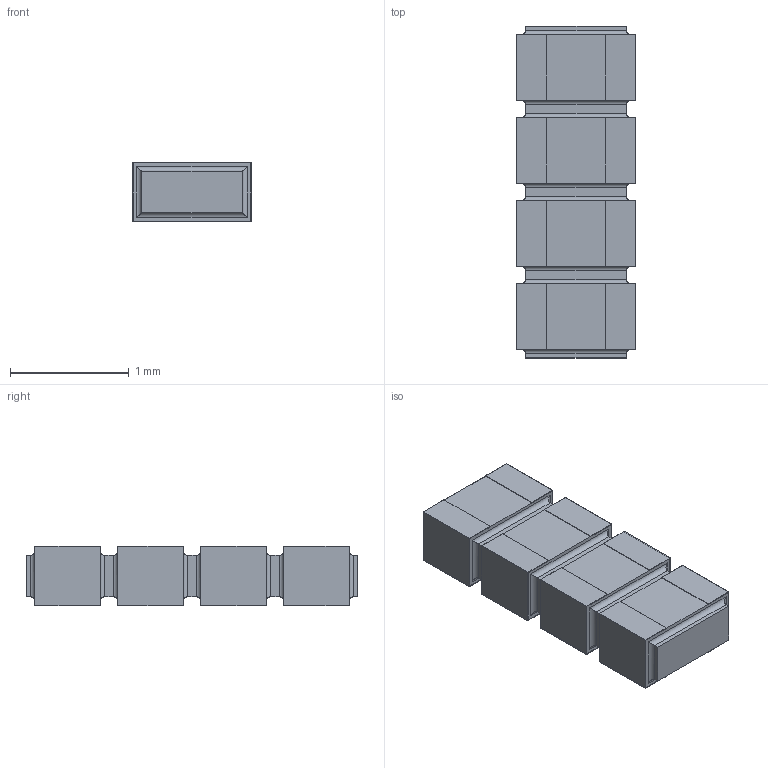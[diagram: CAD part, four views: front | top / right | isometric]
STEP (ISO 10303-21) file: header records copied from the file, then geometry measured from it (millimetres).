
FILE_DESCRIPTION(/* description */ (''),/* implementation_level */ '2;1');
FILE_NAME(/* name */ 'S:\DOCUMENT\AUTOCAD\3D_Modèles\10_3D-pour-VISHAY-COM\PRA\PRA074\PRA074-I2_à_I8\10_IGES\PRA074I4_B-or-N-or-G.stp',/* time_stamp */ '2017-12-19T14:52:47+01:00',/* author */ ('dparmentier'),/* organization */ ('unknown'),/* preprocessor_version */ 'ST-DEVELOPER v17',/* originating_system */ 'Autodesk Inventor 2018',/* authorisation */ '');
FILE_SCHEMA (('AUTOMOTIVE_DESIGN { 1 0 10303 214 3 1 1 }'));
Length unit declared in the file: millimetre
Products named in the file (1): PRA074I4_B-or-N-or-G
Bounding box: 1 x 2.8 x 0.5 mm (x, y, z)
Volume: 1.3 mm3; surface area: 18.6 mm2
Topology: 9 solids, 9 shells, 158 faces, 364 edges, 232 vertices
Faces by surface type: plane 126, cylinder 32
Entity records: 4409 total; most frequent: CARTESIAN_POINT 755, ORIENTED_EDGE 728, DIRECTION 714, EDGE_CURVE 364, LINE 332, VECTOR 332, VERTEX_POINT 232, AXIS2_PLACEMENT_3D 191
